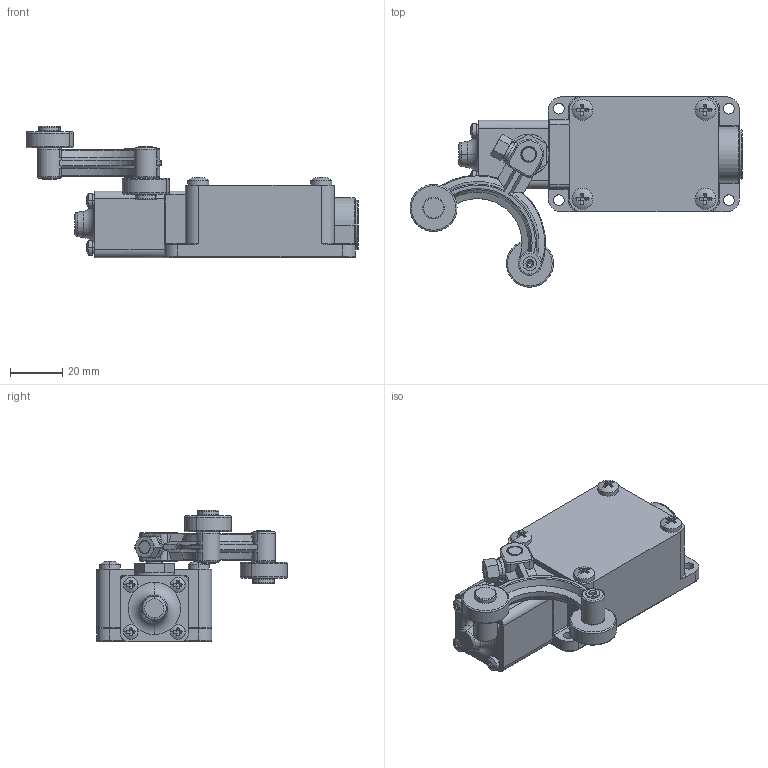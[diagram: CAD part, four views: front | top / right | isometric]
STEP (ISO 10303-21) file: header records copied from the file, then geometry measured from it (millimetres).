
FILE_DESCRIPTION((''),'2;1');
FILE_NAME('232','2025-05-06T',('qinxiong.ji'),(''),'PRO/ENGINEER BY PARAMETRIC TECHNOLOGY CORPORATION, 2015440','PRO/ENGINEER BY PARAMETRIC TECHNOLOGY CORPORATION, 2015440','');
FILE_SCHEMA(('CONFIG_CONTROL_DESIGN'));
Length unit declared in the file: millimetre
Products named in the file (1): 232
Bounding box: 126.91 x 72.81 x 50.25 mm (x, y, z)
Volume: 105119.7 mm3; surface area: 26795.4 mm2
Topology: 3 solids, 14 shells, 693 faces, 1726 edges, 1066 vertices
Faces by surface type: plane 327, cylinder 186, torus 111, cone 53, sphere 16
Entity records: 22174 total; most frequent: CARTESIAN_POINT 5426, DIRECTION 3648, ORIENTED_EDGE 3444, EDGE_CURVE 1722, AXIS2_PLACEMENT_3D 1452, VERTEX_POINT 1066, CIRCLE 759, EDGE_LOOP 746
